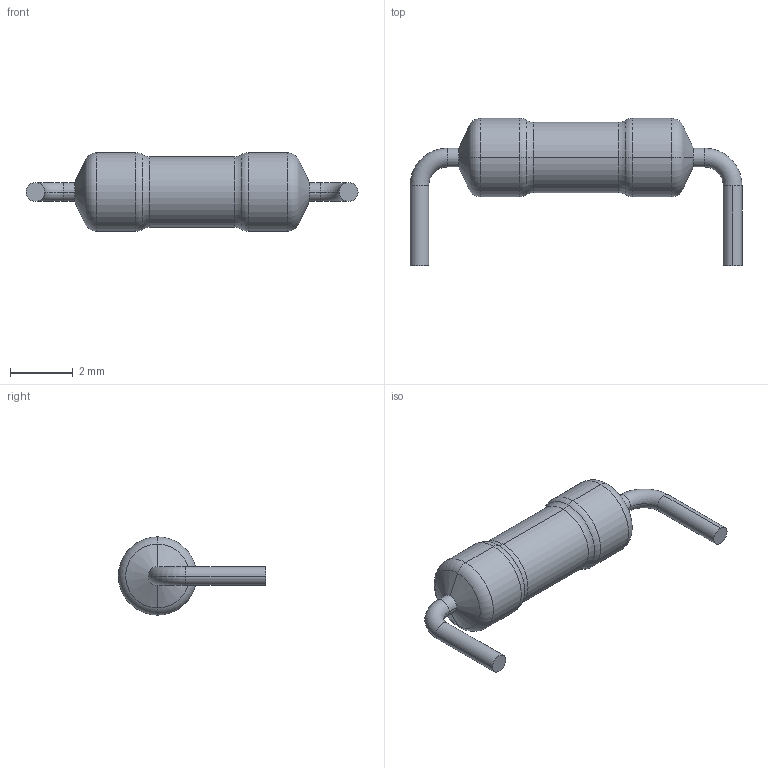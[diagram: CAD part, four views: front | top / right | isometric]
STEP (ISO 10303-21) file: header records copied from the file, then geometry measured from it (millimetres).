
FILE_DESCRIPTION (( 'STEP AP214' ), '1' );
FILE_NAME ('RESM7,5X2,5.STEP', '2011-11-21T07:40:53', ( 'vpeshkov' ), ( 'ELCORT' ), 'SwSTEP 2.0', 'SolidWorks 2009', '' );
FILE_SCHEMA (( 'AUTOMOTIVE_DESIGN' ));
Length unit declared in the file: millimetre
Products named in the file (1): RESM7,5X2,5
Bounding box: 10.6 x 4.7 x 2.5 mm (x, y, z)
Volume: 33.7 mm3; surface area: 75.9 mm2
Topology: 1 solids, 1 shells, 36 faces, 76 edges, 42 vertices
Faces by surface type: torus 16, cylinder 14, cone 4, plane 2
Entity records: 1158 total; most frequent: DIRECTION 208, CARTESIAN_POINT 155, ORIENTED_EDGE 152, AXIS2_PLACEMENT_3D 95, EDGE_CURVE 76, CIRCLE 58, VERTEX_POINT 42, FACE_OUTER_BOUND 36
